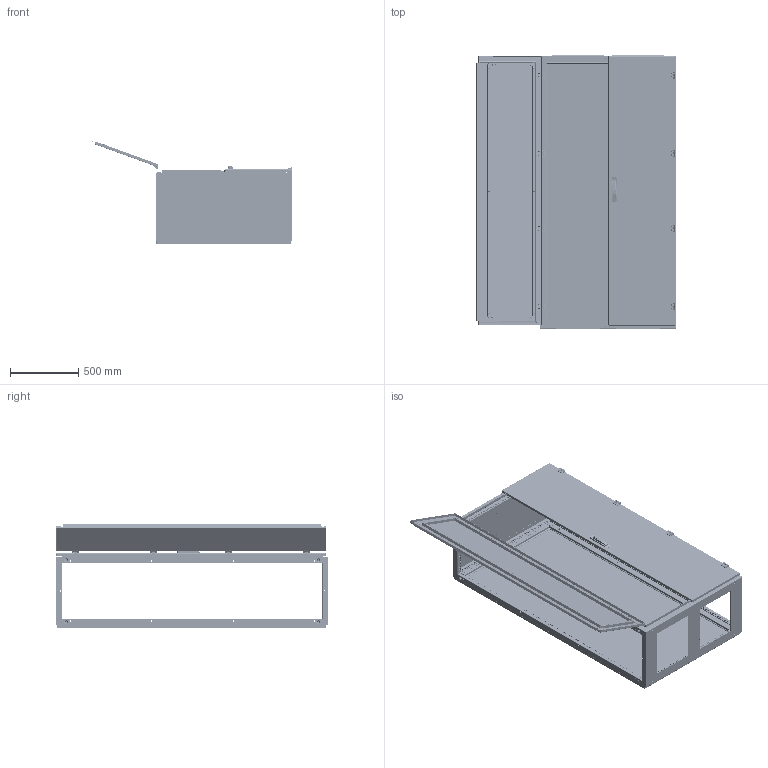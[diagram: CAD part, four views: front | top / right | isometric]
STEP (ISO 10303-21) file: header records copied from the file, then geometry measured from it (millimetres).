
FILE_DESCRIPTION (( 'STEP AP214' ), '1' );
FILE_NAME ('QA201005.step', '2011-08-11T08:34:50', ( 'Radek Veselý' ), ( 'Siemens and Partners' ), 'SwSTEP 2.0', 'SolidWorks 2006303', '' );
FILE_SCHEMA (( 'AUTOMOTIVE_DESIGN' ));
Length unit declared in the file: millimetre
Products named in the file (1): QA201005
Bounding box: 1468.78 x 2004.5 x 762.7 mm (x, y, z)
Volume: 14104426.1 mm3; surface area: 16273107.5 mm2
Topology: 158 solids, 158 shells, 8999 faces, 24855 edges, 16151 vertices
Faces by surface type: plane 4460, cylinder 3743, cone 474, bspline 271, torus 51
Entity records: 376294 total; most frequent: CARTESIAN_POINT 67603, DIRECTION 49403, ORIENTED_EDGE 49054, EDGE_CURVE 24527, AXIS2_PLACEMENT_3D 16798, VERTEX_POINT 16151, VECTOR 15807, LINE 15807
